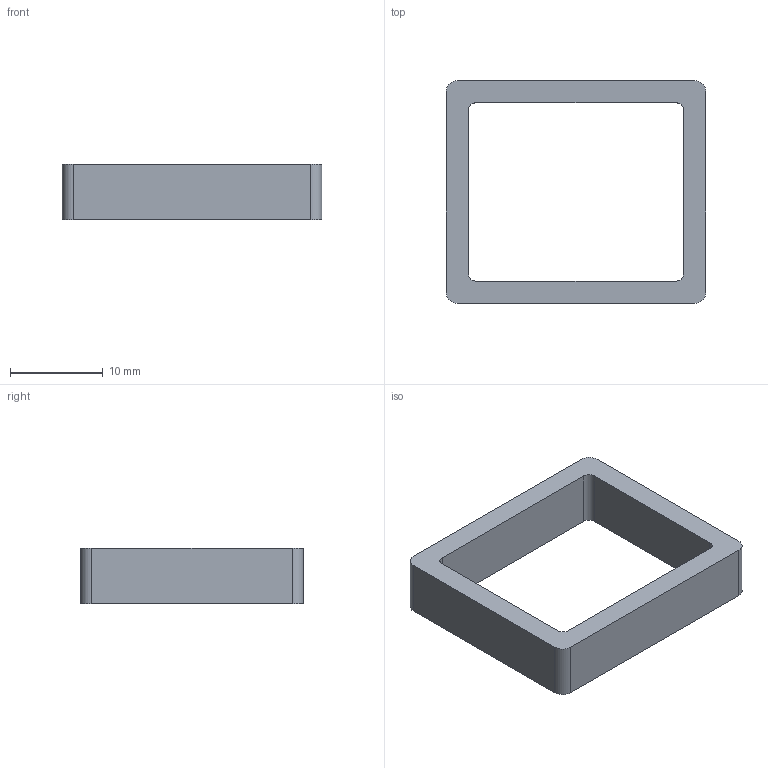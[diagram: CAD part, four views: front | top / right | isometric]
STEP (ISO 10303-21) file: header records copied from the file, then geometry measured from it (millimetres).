
FILE_DESCRIPTION(('Open CASCADE Model'),'2;1');
FILE_NAME('Open CASCADE Shape Model','2026-10-22T00:34:13',('Author'),( 'Open CASCADE'),'Open CASCADE STEP processor 7.8','Open CASCADE 7.8' ,'Unknown');
FILE_SCHEMA(('AUTOMOTIVE_DESIGN { 1 0 10303 214 1 1 1 1 }'));
Length unit declared in the file: millimetre
Products named in the file (1): Open CASCADE STEP translator 7.8 5
Bounding box: 28 x 24 x 6 mm (x, y, z)
Volume: 1355.2 mm3; surface area: 1563.9 mm2
Topology: 1 solids, 1 shells, 18 faces, 48 edges, 32 vertices
Faces by surface type: plane 10, cylinder 8
Entity records: 1218 total; most frequent: CARTESIAN_POINT 219, DIRECTION 194, LINE 112, VECTOR 112, ORIENTED_EDGE 96, PCURVE 96, DEFINITIONAL_REPRESENTATION 96, EDGE_CURVE 48
